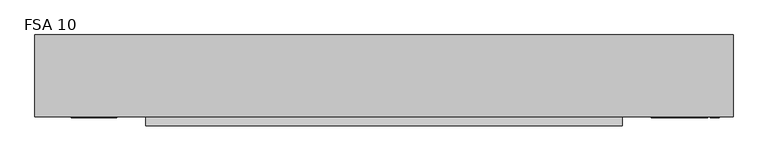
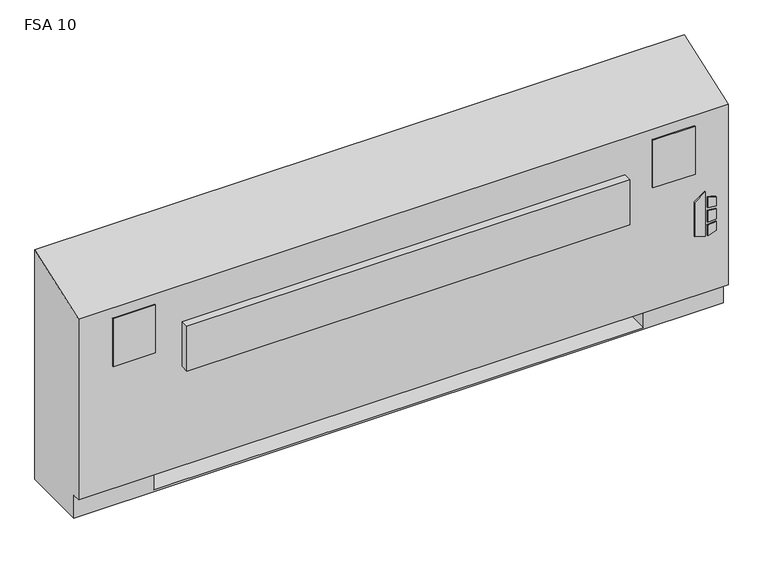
"""IFC4 building model written with IfcOpenShell, lengths in millimetres: proxy geometry, Vertical_Fan_Coil_Unit_-_FSA_-_IEC_-_4-Pipe_FS-FR_RH_2022 : FSA 10."""

from ifc_helpers import new_model, si_unit, point, frame, frame_2d, origin, place, context, project, spatial, polyline, circle_curve, trimmed, segment, composite_curve, outline, extrude, source, transform, mapped, element, save
from ifc_brep_helpers import plane_surface, revolved_surface, advanced_brep


def fsa_10_1add2491(model_context):
    return source(origin(), model_context, "Body", "SolidModel", [
        extrude(outline(polyline([(263.9480703, 1027.1868862), (254.0, 1059.3602728), (396.1709244, 1059.3602728), (373.1489183, 1027.1868862), (263.9480703, 1027.1868862)])), frame((0.0, 12.7, 0.0), z_axis=(0.0, 1.0, 0.0), x_axis=(0.0, 0.0, 1.0)), (0.0, 0.0, 1.0), 3.175),
        extrude(outline(polyline([(342.9473557, 1066.1186058), (339.7449632, 1092.2), (368.9738042, 1092.2), (377.0382193, 1066.1186058), (342.9473557, 1066.1186058)])), frame((0.0, 12.7, 0.0), z_axis=(0.0, 1.0, 0.0), x_axis=(0.0, 0.0, 1.0)), (0.0, 0.0, 1.0), 3.175),
        extrude(outline(polyline([(291.0838288, 1092.2), (287.4183279, 1066.1186058), (254.0, 1066.1186058), (262.6342372, 1092.2), (291.0838288, 1092.2)])), frame((0.0, 12.7, 0.0), z_axis=(0.0, 1.0, 0.0), x_axis=(0.0, 0.0, 1.0)), (0.0, 0.0, 1.0), 3.175),
        extrude(outline(polyline([(330.3989903, 1092.2), (332.6808166, 1066.1186058), (296.7432681, 1066.1186058), (299.4845331, 1092.2), (330.3989903, 1092.2)])), frame((0.0, 12.7, 0.0), z_axis=(0.0, 1.0, 0.0), x_axis=(0.0, 0.0, 1.0)), (0.0, 0.0, 1.0), 3.175),
        extrude(outline(polyline([(-704.85, 81.534), (-704.85, 223.266), (-584.2, 223.266), (-584.2, 81.534), (-704.85, 81.534)])), frame((0.0, 0.0, 327.025), z_axis=(0.0, 0.0, 1.0), x_axis=(1.0, 0.0, 0.0)), (0.0, 0.0, 1.0), 260.35),
        extrude(outline(polyline([(-596.9, 12.7), (-723.9, 12.7), (-723.9, 15.875), (-596.9, 15.875), (-596.9, 12.7)])), frame((0.0, 0.0, 463.55), z_axis=(0.0, 0.0, 1.0), x_axis=(1.0, 0.0, 0.0)), (0.0, 0.0, 1.0), 152.4),
        extrude(outline(polyline([(1028.7, 12.7), (901.7, 12.7), (901.7, 15.875), (1028.7, 15.875), (1028.7, 12.7)])), frame((0.0, 0.0, 463.55), z_axis=(0.0, 0.0, 1.0), x_axis=(1.0, 0.0, 0.0)), (0.0, 0.0, 1.0), 152.4),
        extrude(outline(composite_curve([segment(trimmed(circle_curve(frame_2d((952.5, 130.175)), 9.525), [point((942.975, 130.175))], [point((962.025, 130.175))], False, "CARTESIAN"), True, "CONTINUOUS"), segment(trimmed(circle_curve(frame_2d((952.5, 130.175)), 9.525), [point((962.025, 130.175))], [point((942.975, 130.175))], False, "CARTESIAN"), True, "CONTINUOUS")], self_intersect=False)), frame((0.0, 0.0, 101.6), z_axis=(0.0, 0.0, 1.0), x_axis=(1.0, 0.0, 0.0)), (0.0, 0.0, 1.0), 25.4),
        extrude(outline(polyline([(1054.1, 196.85), (1054.1, 63.5), (889.0, 63.5), (889.0, 196.85), (1054.1, 196.85)])), frame((0.0, 0.0, 127.0), z_axis=(0.0, 0.0, 1.0), x_axis=(1.0, 0.0, 0.0)), (0.0, 0.0, 1.0), 50.8),
        extrude(outline(polyline([(819.15, -9.525), (-514.35, -9.525), (-514.35, 15.875), (819.15, 15.875), (819.15, -9.525)])), frame((0.0, 0.0, 389.3009245), z_axis=(0.0, 0.0, 1.0), x_axis=(1.0, 0.0, 0.0)), (0.0, 0.0, 1.0), 142.875),
        extrude(outline(composite_curve([segment(trimmed(circle_curve(frame_2d((109.0168, 460.0194)), 7.9375), [point((109.0168, 467.9569))], [point((109.0168, 452.0819))], False, "CARTESIAN"), True, "CONTINUOUS"), segment(trimmed(circle_curve(frame_2d((109.0168, 460.0194)), 7.9375), [point((109.0168, 452.0819))], [point((109.0168, 467.9569))], False, "CARTESIAN"), True, "CONTINUOUS")], self_intersect=False)), frame((889.0, 0.0, 0.0), z_axis=(1.0, 0.0, 0.0), x_axis=(0.0, 1.0, 0.0)), (0.0, 0.0, 1.0), 50.8),
        extrude(outline(composite_curve([segment(trimmed(circle_curve(frame_2d((172.085, 460.0194)), 7.9375), [point((172.085, 467.9569))], [point((172.085, 452.0819))], False, "CARTESIAN"), True, "CONTINUOUS"), segment(trimmed(circle_curve(frame_2d((172.085, 460.0194)), 7.9375), [point((172.085, 452.0819))], [point((172.085, 467.9569))], False, "CARTESIAN"), True, "CONTINUOUS")], self_intersect=False)), frame((889.0, 0.0, 0.0), z_axis=(1.0, 0.0, 0.0), x_axis=(0.0, 1.0, 0.0)), (0.0, 0.0, 1.0), 50.8),
        extrude(outline(composite_curve([segment(trimmed(circle_curve(frame_2d((53.975, 416.56)), 7.9502), [point((53.975, 424.5102))], [point((53.975, 408.6098))], False, "CARTESIAN"), True, "CONTINUOUS"), segment(trimmed(circle_curve(frame_2d((53.975, 416.56)), 7.9502), [point((53.975, 408.6098))], [point((53.975, 424.5102))], False, "CARTESIAN"), True, "CONTINUOUS")], self_intersect=False)), frame((889.0, 0.0, 0.0), z_axis=(1.0, 0.0, 0.0), x_axis=(0.0, 1.0, 0.0)), (0.0, 0.0, 1.0), 50.8),
        extrude(outline(composite_curve([segment(trimmed(circle_curve(frame_2d((130.175, 554.99)), 7.9502), [point((130.175, 562.9402))], [point((130.175, 547.0398))], False, "CARTESIAN"), True, "CONTINUOUS"), segment(trimmed(circle_curve(frame_2d((130.175, 554.99)), 7.9502), [point((130.175, 547.0398))], [point((130.175, 562.9402))], False, "CARTESIAN"), True, "CONTINUOUS")], self_intersect=False)), frame((889.0, 0.0, 0.0), z_axis=(1.0, 0.0, 0.0), x_axis=(0.0, 1.0, 0.0)), (0.0, 0.0, 1.0), 50.8),
        advanced_brep(
        [(-825.5, 244.475, 0.0), (1130.3, 244.475, 0.0), (1130.3, 41.275, 0.0), (-825.5, 41.275, 0.0), (-825.5, 244.475, 730.25), (1130.3, 244.475, 730.25), (889.0, 244.475, 73.025), (1117.6, 244.475, 73.025), (1117.6, 244.475, 654.05), (889.0, 244.475, 654.05), (889.0, 244.475, 414.8650565), (917.575, 244.475, 414.8650565), (917.575, 244.475, 385.2349435), (889.0, 244.475, 385.2349435), (889.0, 244.475, 287.3375), (917.575, 244.475, 287.3375), (917.575, 244.475, 258.7625), (889.0, 244.475, 258.7625), (889.0, 244.475, 141.2875), (917.575, 244.475, 141.2875), (917.575, 244.475, 112.7125), (889.0, 244.475, 112.7125), (-584.2, 244.475, 654.05), (-812.8, 244.475, 654.05), (-812.8, 244.475, 73.025), (-584.2, 244.475, 73.025), (-584.2, 244.475, 112.7125), (-612.775, 244.475, 112.7125), (-612.775, 244.475, 141.2875), (-584.2, 244.475, 141.2875), (-584.2, 244.475, 258.7625), (-612.775, 244.475, 258.7625), (-612.775, 244.475, 287.3375), (-584.2, 244.475, 287.3375), (-584.2, 244.475, 385.2349435), (-612.775, 244.475, 385.2349435), (-612.775, 244.475, 414.8650565), (-584.2, 244.475, 414.8650565), (907.2626, 244.475, 127.0), (896.1374, 244.475, 127.0), (907.2626, 244.475, 400.05), (896.1374, 244.475, 400.05), (907.2626, 244.475, 273.05), (896.1374, 244.475, 273.05), (-591.3374, 244.475, 127.0), (-602.4626, 244.475, 127.0), (-591.3374, 244.475, 273.05), (-602.4626, 244.475, 273.05), (-591.3374, 244.475, 400.05), (-602.4626, 244.475, 400.05), (-825.5, 41.275, 73.025), (-825.5, 15.875, 73.025), (-825.5, 15.875, 647.7), (1130.3, 15.875, 73.025), (1130.3, 15.875, 647.7), (1130.3, 41.275, 73.025), (-584.2, 41.275, 73.025), (-584.2, 225.425, 73.025), (889.0, 225.425, 73.025), (889.0, 41.275, 73.025), (889.0, 41.275, 6.35), (-584.2, 41.275, 6.35), (889.0, 41.275, 654.05), (1117.6, 41.275, 654.05), (1117.6, 41.275, 73.025), (889.0, 41.275, 73.025), (-584.2, 41.275, 654.05), (-584.2, 41.275, 73.025), (-812.8, 41.275, 73.025), (-812.8, 41.275, 654.05), (889.0, 225.425, 73.025), (889.0, 238.125, 112.7125), (889.0, 238.125, 141.2875), (889.0, 238.125, 258.7625), (889.0, 238.125, 287.3375), (889.0, 238.125, 385.2349435), (889.0, 238.125, 414.8650565), (-584.2, 225.425, 73.025), (-584.2, 238.125, 414.8650565), (-584.2, 238.125, 385.2349435), (-584.2, 238.125, 287.3375), (-584.2, 238.125, 258.7625), (-584.2, 238.125, 141.2875), (-584.2, 238.125, 112.7125), (-584.2, 225.425, 6.35), (889.0, 225.425, 6.35), (917.575, 238.125, 112.7125), (917.575, 238.125, 141.2875), (896.1374, 238.125, 127.0), (907.2626, 238.125, 127.0), (917.575, 238.125, 258.7625), (917.575, 238.125, 287.3375), (896.1374, 238.125, 273.05), (907.2626, 238.125, 273.05), (917.575, 238.125, 385.2349435), (917.575, 238.125, 414.8650565), (896.1374, 238.125, 400.05), (907.2626, 238.125, 400.05), (-612.775, 238.125, 141.2875), (-612.775, 238.125, 112.7125), (-602.4626, 238.125, 127.0), (-591.3374, 238.125, 127.0), (-612.775, 238.125, 287.3375), (-612.775, 238.125, 258.7625), (-602.4626, 238.125, 273.05), (-591.3374, 238.125, 273.05), (-612.775, 238.125, 414.8650565), (-612.775, 238.125, 385.2349435), (-602.4626, 238.125, 400.05), (-591.3374, 238.125, 400.05)],
        [
            (0, 1),
            (1, 2),
            (2, 3),
            (3, 0),
            (0, 4),
            (4, 5),
            (5, 1),
            (6, 7),
            (7, 8),
            (8, 9),
            (9, 10),
            (10, 11),
            (11, 12),
            (12, 13),
            (13, 14),
            (14, 15),
            (15, 16),
            (16, 17),
            (17, 18),
            (18, 19),
            (19, 20),
            (20, 21),
            (21, 6),
            (22, 23),
            (23, 24),
            (24, 25),
            (25, 26),
            (26, 27),
            (27, 28),
            (28, 29),
            (29, 30),
            (30, 31),
            (31, 32),
            (32, 33),
            (33, 34),
            (34, 35),
            (35, 36),
            (36, 37),
            (37, 22),
            (38, 39, circle_curve(frame((901.7, 244.475, 127.0), z_axis=(0.0, -1.0, 0.0), x_axis=(-1.0, 0.0, 0.0)), 5.5626)),
            (39, 38, circle_curve(frame((901.7, 244.475, 127.0), z_axis=(0.0, -1.0, 0.0), x_axis=(-1.0, 0.0, 0.0)), 5.5626)),
            (40, 41, circle_curve(frame((901.7, 244.475, 400.05), z_axis=(0.0, -1.0, 0.0), x_axis=(-1.0, 0.0, 0.0)), 5.5626)),
            (41, 40, circle_curve(frame((901.7, 244.475, 400.05), z_axis=(0.0, -1.0, 0.0), x_axis=(-1.0, 0.0, 0.0)), 5.5626)),
            (42, 43, circle_curve(frame((901.7, 244.475, 273.05), z_axis=(0.0, -1.0, 0.0), x_axis=(-1.0, 0.0, 0.0)), 5.5626)),
            (43, 42, circle_curve(frame((901.7, 244.475, 273.05), z_axis=(0.0, -1.0, 0.0), x_axis=(-1.0, 0.0, 0.0)), 5.5626)),
            (44, 45, circle_curve(frame((-596.9, 244.475, 127.0), z_axis=(0.0, -1.0, 0.0), x_axis=(-1.0, 0.0, 0.0)), 5.5626)),
            (45, 44, circle_curve(frame((-596.9, 244.475, 127.0), z_axis=(0.0, -1.0, 0.0), x_axis=(-1.0, 0.0, 0.0)), 5.5626)),
            (46, 47, circle_curve(frame((-596.9, 244.475, 273.05), z_axis=(0.0, -1.0, 0.0), x_axis=(-1.0, 0.0, 0.0)), 5.5626)),
            (47, 46, circle_curve(frame((-596.9, 244.475, 273.05), z_axis=(0.0, -1.0, 0.0), x_axis=(-1.0, 0.0, 0.0)), 5.5626)),
            (48, 49, circle_curve(frame((-596.9, 244.475, 400.05), z_axis=(0.0, -1.0, 0.0), x_axis=(-1.0, 0.0, 0.0)), 5.5626)),
            (49, 48, circle_curve(frame((-596.9, 244.475, 400.05), z_axis=(0.0, -1.0, 0.0), x_axis=(-1.0, 0.0, 0.0)), 5.5626)),
            (3, 50),
            (50, 51),
            (51, 52),
            (52, 4),
            (51, 53),
            (53, 54),
            (54, 52),
            (5, 54),
            (53, 55),
            (55, 2),
            (50, 56),
            (56, 57),
            (57, 58),
            (58, 59),
            (59, 55),
            (59, 60),
            (60, 61),
            (61, 56),
            (62, 63),
            (63, 64),
            (64, 65),
            (65, 62),
            (66, 67),
            (67, 68),
            (68, 69),
            (69, 66),
            (65, 70),
            (70, 6),
            (21, 71),
            (71, 72),
            (72, 18),
            (17, 73),
            (73, 74),
            (74, 14),
            (13, 75),
            (75, 76),
            (76, 10),
            (9, 62),
            (64, 7),
            (63, 8),
            (69, 23),
            (22, 66),
            (68, 24),
            (67, 77),
            (77, 25),
            (37, 78),
            (78, 79),
            (79, 34),
            (33, 80),
            (80, 81),
            (81, 30),
            (29, 82),
            (82, 83),
            (83, 26),
            (57, 84),
            (84, 85),
            (85, 58),
            (85, 60),
            (84, 61),
            (71, 86),
            (86, 87),
            (87, 72),
            (88, 89, circle_curve(frame((901.7, 238.125, 127.0), z_axis=(0.0, 1.0, 0.0), x_axis=(-1.0, 0.0, 0.0)), 5.5626)),
            (89, 88, circle_curve(frame((901.7, 238.125, 127.0), z_axis=(0.0, 1.0, 0.0), x_axis=(-1.0, 0.0, 0.0)), 5.5626)),
            (73, 90),
            (90, 91),
            (91, 74),
            (92, 93, circle_curve(frame((901.7, 238.125, 273.05), z_axis=(0.0, 1.0, 0.0), x_axis=(-1.0, 0.0, 0.0)), 5.5626)),
            (93, 92, circle_curve(frame((901.7, 238.125, 273.05), z_axis=(0.0, 1.0, 0.0), x_axis=(-1.0, 0.0, 0.0)), 5.5626)),
            (75, 94),
            (94, 95),
            (95, 76),
            (96, 97, circle_curve(frame((901.7, 238.125, 400.05), z_axis=(0.0, 1.0, 0.0), x_axis=(-1.0, 0.0, 0.0)), 5.5626)),
            (97, 96, circle_curve(frame((901.7, 238.125, 400.05), z_axis=(0.0, 1.0, 0.0), x_axis=(-1.0, 0.0, 0.0)), 5.5626)),
            (98, 99),
            (99, 83),
            (82, 98),
            (100, 101, circle_curve(frame((-596.9, 238.125, 127.0), z_axis=(0.0, 1.0, 0.0), x_axis=(-1.0, 0.0, 0.0)), 5.5626)),
            (101, 100, circle_curve(frame((-596.9, 238.125, 127.0), z_axis=(0.0, 1.0, 0.0), x_axis=(-1.0, 0.0, 0.0)), 5.5626)),
            (102, 103),
            (103, 81),
            (80, 102),
            (104, 105, circle_curve(frame((-596.9, 238.125, 273.05), z_axis=(0.0, 1.0, 0.0), x_axis=(-1.0, 0.0, 0.0)), 5.5626)),
            (105, 104, circle_curve(frame((-596.9, 238.125, 273.05), z_axis=(0.0, 1.0, 0.0), x_axis=(-1.0, 0.0, 0.0)), 5.5626)),
            (106, 107),
            (107, 79),
            (78, 106),
            (108, 109, circle_curve(frame((-596.9, 238.125, 400.05), z_axis=(0.0, 1.0, 0.0), x_axis=(-1.0, 0.0, 0.0)), 5.5626)),
            (109, 108, circle_curve(frame((-596.9, 238.125, 400.05), z_axis=(0.0, 1.0, 0.0), x_axis=(-1.0, 0.0, 0.0)), 5.5626)),
            (87, 19),
            (86, 20),
            (91, 15),
            (90, 16),
            (95, 11),
            (94, 12),
            (28, 98),
            (99, 27),
            (32, 102),
            (103, 31),
            (36, 106),
            (107, 35),
            (88, 39),
            (38, 89),
            (96, 41),
            (40, 97),
            (92, 43),
            (42, 93),
            (100, 45),
            (44, 101),
            (104, 47),
            (46, 105),
            (108, 49),
            (48, 109),
        ],
        [
            plane_surface(frame((-825.5, 244.475, 0.0), z_axis=(0.0, 0.0, -1.0), x_axis=(1.0, 0.0, 0.0))),
            plane_surface(frame((1130.3, 244.475, 730.25), z_axis=(0.0, 1.0, 0.0), x_axis=(0.0, 0.0, -1.0))),
            plane_surface(frame((-825.5, 244.475, 730.25), z_axis=(-1.0, 0.0, 0.0), x_axis=(0.0, 0.0, -1.0))),
            plane_surface(frame((-825.5, 15.875, 730.25), z_axis=(0.0, -1.0, 0.0), x_axis=(0.0, 0.0, -1.0))),
            plane_surface(frame((1130.3, 15.875, 730.25), z_axis=(1.0, 0.0, 0.0), x_axis=(0.0, 0.0, -1.0))),
            plane_surface(frame((-825.5, 15.875, 73.025), z_axis=(0.0, 0.0, -1.0), x_axis=(1.0, 0.0, 0.0))),
            plane_surface(frame((-825.5, 41.275, 73.025), z_axis=(0.0, -1.0, 0.0), x_axis=(1.0, 0.0, 0.0))),
            plane_surface(frame((889.0, 41.275, 654.05), z_axis=(0.0, 1.0, 0.0), x_axis=(0.0, 0.0, -1.0))),
            plane_surface(frame((889.0, 41.275, 654.05), z_axis=(1.0, 0.0, 0.0), x_axis=(0.0, 1.0, 0.0))),
            plane_surface(frame((889.0, 41.275, 73.025), z_axis=(0.0, 0.0, 1.0), x_axis=(0.0, 1.0, 0.0))),
            plane_surface(frame((1117.6, 41.275, 73.025), z_axis=(-1.0, 0.0, 0.0), x_axis=(0.0, 1.0, 0.0))),
            plane_surface(frame((1117.6, 41.275, 654.05), z_axis=(0.0, 0.0, -1.0), x_axis=(0.0, 1.0, 0.0))),
            plane_surface(frame((-584.2, 41.275, 654.05), z_axis=(0.0, 0.0, -1.0), x_axis=(0.0, 1.0, 0.0))),
            plane_surface(frame((-812.8, 41.275, 654.05), z_axis=(1.0, 0.0, 0.0), x_axis=(0.0, 1.0, 0.0))),
            plane_surface(frame((-812.8, 41.275, 73.025), z_axis=(0.0, 0.0, 1.0), x_axis=(0.0, 1.0, 0.0))),
            plane_surface(frame((-584.2, 41.275, 73.025), z_axis=(-1.0, 0.0, 0.0), x_axis=(0.0, 1.0, 0.0))),
            plane_surface(frame((889.0, 225.425, 73.025), z_axis=(0.0, -1.0, 0.0), x_axis=(0.0, 0.0, -1.0))),
            plane_surface(frame((889.0, 225.425, 73.025), z_axis=(-1.0, 0.0, 0.0), x_axis=(0.0, -1.0, 0.0))),
            plane_surface(frame((889.0, 225.425, 6.35), z_axis=(0.0, 0.0, 1.0), x_axis=(0.0, -1.0, 0.0))),
            plane_surface(frame((-584.2, 225.425, 6.35), z_axis=(1.0, 0.0, 0.0), x_axis=(0.0, -1.0, 0.0))),
            plane_surface(frame((917.575, 238.125, 141.2875), z_axis=(0.0, -1.0, 0.0), x_axis=(-1.0, 0.0, 0.0))),
            plane_surface(frame((889.0, 244.475, 141.2875), z_axis=(0.0, 0.0, 1.0), x_axis=(0.0, -1.0, 0.0))),
            plane_surface(frame((917.575, 244.475, 141.2875), z_axis=(1.0, 0.0, 0.0), x_axis=(0.0, -1.0, 0.0))),
            plane_surface(frame((917.575, 244.475, 112.7125), z_axis=(0.0, 0.0, -1.0), x_axis=(0.0, -1.0, 0.0))),
            plane_surface(frame((889.0, 244.475, 287.3375), z_axis=(0.0, 0.0, 1.0), x_axis=(0.0, -1.0, 0.0))),
            plane_surface(frame((917.575, 244.475, 287.3375), z_axis=(1.0, 0.0, 0.0), x_axis=(0.0, -1.0, 0.0))),
            plane_surface(frame((917.575, 244.475, 258.7625), z_axis=(0.0, 0.0, -1.0), x_axis=(0.0, -1.0, 0.0))),
            plane_surface(frame((889.0, 244.475, 414.8650565), z_axis=(0.0, 0.0, 1.0), x_axis=(0.0, -1.0, 0.0))),
            plane_surface(frame((917.575, 244.475, 414.8650565), z_axis=(1.0, 0.0, 0.0), x_axis=(0.0, -1.0, 0.0))),
            plane_surface(frame((917.575, 244.475, 385.2349435), z_axis=(0.0, 0.0, -1.0), x_axis=(0.0, -1.0, 0.0))),
            plane_surface(frame((-612.775, 244.475, 141.2875), z_axis=(0.0, 0.0, 1.0), x_axis=(0.0, -1.0, 0.0))),
            plane_surface(frame((-584.2, 244.475, 112.7125), z_axis=(0.0, 0.0, -1.0), x_axis=(0.0, -1.0, 0.0))),
            plane_surface(frame((-612.775, 244.475, 112.7125), z_axis=(-1.0, 0.0, 0.0), x_axis=(0.0, -1.0, 0.0))),
            plane_surface(frame((-612.775, 244.475, 287.3375), z_axis=(0.0, 0.0, 1.0), x_axis=(0.0, -1.0, 0.0))),
            plane_surface(frame((-584.2, 244.475, 258.7625), z_axis=(0.0, 0.0, -1.0), x_axis=(0.0, -1.0, 0.0))),
            plane_surface(frame((-612.775, 244.475, 258.7625), z_axis=(-1.0, 0.0, 0.0), x_axis=(0.0, -1.0, 0.0))),
            plane_surface(frame((-612.775, 244.475, 414.8650565), z_axis=(0.0, 0.0, 1.0), x_axis=(0.0, -1.0, 0.0))),
            plane_surface(frame((-584.2, 244.475, 385.2349435), z_axis=(0.0, 0.0, -1.0), x_axis=(0.0, -1.0, 0.0))),
            plane_surface(frame((-612.775, 244.475, 385.2349435), z_axis=(-1.0, 0.0, 0.0), x_axis=(0.0, -1.0, 0.0))),
            revolved_surface(polyline([(896.1374000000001, 238.125, 127.0), (896.1374000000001, 244.475, 127.0)]), (901.7, 244.475, 127.0), (0.0, -1.0, 0.0)),
            revolved_surface(polyline([(896.1374000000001, 238.125, 400.05), (896.1374000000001, 244.475, 400.05)]), (901.7, 244.475, 400.05), (0.0, -1.0, 0.0)),
            revolved_surface(polyline([(896.1374000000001, 238.125, 273.05), (896.1374000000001, 244.475, 273.05)]), (901.7, 244.475, 273.05), (0.0, -1.0, 0.0)),
            revolved_surface(polyline([(-602.4626, 238.125, 127.0), (-602.4626, 244.475, 127.0)]), (-596.9, 244.475, 127.0), (0.0, -1.0, 0.0)),
            revolved_surface(polyline([(-602.4626, 238.125, 273.05), (-602.4626, 244.475, 273.05)]), (-596.9, 244.475, 273.05), (0.0, -1.0, 0.0)),
            revolved_surface(polyline([(-602.4626, 238.125, 400.05), (-602.4626, 244.475, 400.05)]), (-596.9, 244.475, 400.05), (0.0, -1.0, 0.0)),
            plane_surface(frame((-825.5, 244.475, 730.25), z_axis=(0.0, -0.33964446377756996, 0.9405538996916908), x_axis=(1.0, 0.0, 0.0))),
        ],
        [
            (0, [[1, 2, 3, 4]]),
            (1, [[-1, 5, 6, 7], [8, 9, 10, 11, 12, 13, 14, 15, 16, 17, 18, 19, 20, 21, 22, 23], [24, 25, 26, 27, 28, 29, 30, 31, 32, 33, 34, 35, 36, 37, 38, 39], [40, 41], [42, 43], [44, 45], [46, 47], [48, 49], [50, 51]]),
            (2, [[-5, -4, 52, 53, 54, 55]]),
            (3, [[56, 57, 58, -54]]),
            (4, [[-7, 59, -57, 60, 61, -2]]),
            (5, [[-53, 62, 63, 64, 65, 66, -60, -56]]),
            (6, [[-3, -61, -66, 67, 68, 69, -62, -52]]),
            (7, [[70, 71, 72, 73]]),
            (7, [[74, 75, 76, 77]]),
            (8, [[-73, 78, 79, -23, 80, 81, 82, -19, 83, 84, 85, -15, 86, 87, 88, -11, 89]]),
            (9, [[-72, 90, -8, -79, -78]]),
            (10, [[-71, 91, -9, -90]]),
            (11, [[-70, -89, -10, -91]]),
            (12, [[-77, 92, -24, 93]]),
            (13, [[-76, 94, -25, -92]]),
            (14, [[-75, 95, 96, -26, -94]]),
            (15, [[-74, -93, -39, 97, 98, 99, -35, 100, 101, 102, -31, 103, 104, 105, -27, -96, -95]]),
            (16, [[-64, 106, 107, 108]]),
            (17, [[-108, 109, -67, -65]]),
            (18, [[-107, 110, -68, -109]]),
            (19, [[-106, -63, -69, -110]]),
            (20, [[111, 112, 113, -81], [114, 115]]),
            (20, [[116, 117, 118, -84], [119, 120]]),
            (20, [[121, 122, 123, -87], [124, 125]]),
            (20, [[126, 127, -104, 128], [129, 130]]),
            (20, [[131, 132, -101, 133], [134, 135]]),
            (20, [[136, 137, -98, 138], [139, 140]]),
            (21, [[-113, 141, -20, -82]]),
            (22, [[-112, 142, -21, -141]]),
            (23, [[-111, -80, -22, -142]]),
            (24, [[-118, 143, -16, -85]]),
            (25, [[-117, 144, -17, -143]]),
            (26, [[-116, -83, -18, -144]]),
            (27, [[-123, 145, -12, -88]]),
            (28, [[-122, 146, -13, -145]]),
            (29, [[-121, -86, -14, -146]]),
            (30, [[-128, -103, -30, 147]]),
            (31, [[-127, 148, -28, -105]]),
            (32, [[-126, -147, -29, -148]]),
            (33, [[-133, -100, -34, 149]]),
            (34, [[-132, 150, -32, -102]]),
            (35, [[-131, -149, -33, -150]]),
            (36, [[-138, -97, -38, 151]]),
            (37, [[-137, 152, -36, -99]]),
            (38, [[-136, -151, -37, -152]]),
            (39, [[153, -40, 154, -114]]),
            (39, [[-153, -115, -154, -41]]),
            (40, [[155, -42, 156, -124]]),
            (40, [[-155, -125, -156, -43]]),
            (41, [[157, -44, 158, -119]]),
            (41, [[-157, -120, -158, -45]]),
            (42, [[159, -46, 160, -129]]),
            (42, [[-159, -130, -160, -47]]),
            (43, [[161, -48, 162, -134]]),
            (43, [[-161, -135, -162, -49]]),
            (44, [[163, -50, 164, -139]]),
            (44, [[-163, -140, -164, -51]]),
            (45, [[-6, -55, -58, -59]]),
        ],
    ),
    ])


if __name__ == "__main__":
    model = new_model("IFC4")
    model_context = context("Model", 3, world=origin())
    ifc_project = project(units=[si_unit("LENGTHUNIT", "METRE", prefix="MILLI")], contexts=[model_context])
    site = spatial("IfcSite", under=ifc_project)
    building = spatial("IfcBuilding", under=site)
    placement = place(None, origin())
    fsa_10_shape = fsa_10_1add2491(model_context)
    element("IfcBuildingElementProxy", 1, Name="Vertical_Fan_Coil_Unit_-_FSA_-_IEC_-_4-Pipe_FS-FR_RH_2022 : FSA 10", ObjectType="Vertical_Fan_Coil_Unit_-_FSA_-_IEC_-_4-Pipe_FS-FR_RH_2022 : FSA 10", at=placement, inside=building, context=model_context, shape_type="MappedRepresentation", body=[
        mapped(fsa_10_shape, transform((0.0, 0.0, 0.0), x_axis=(1.0, 0.0, 0.0), y_axis=(0.0, 1.0, 0.0), z_axis=(0.0, 0.0, 1.0))),
    ])
    save(model, "model.ifc")
